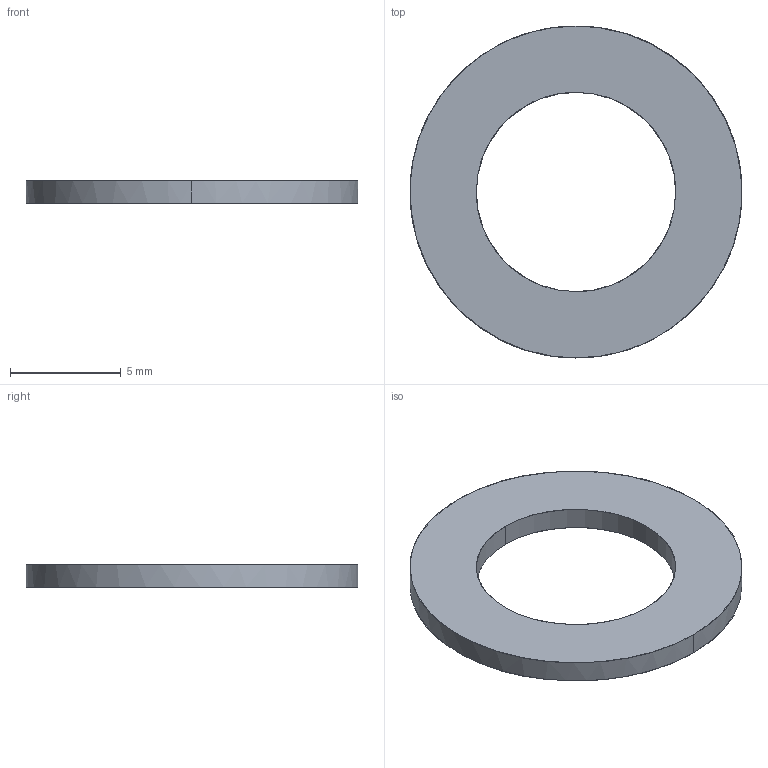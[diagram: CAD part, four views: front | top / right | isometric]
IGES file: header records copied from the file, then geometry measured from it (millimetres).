
Global section: file name: E:\UnigraphicsGraphicData\MISUMI_PRESS-PARTS\IGES\3d_sswa15-1.0_00812_r00.igs; native system: NX V5.0; preprocessor: UGS NX IGES V5.0; author: MISUMI; date: 20110105.163159; units: millimetre
Bounding box: 15 x 15 x 1 mm (x, y, z)
Surface area: 302.3 mm2 (no closed solid volume)
Topology: 0 solids, 0 shells, 6 faces, 48 edges, 48 vertices
Faces by surface type: bspline 6
